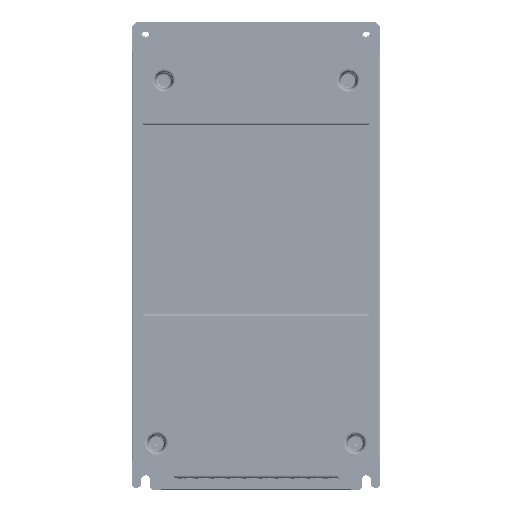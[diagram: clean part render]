
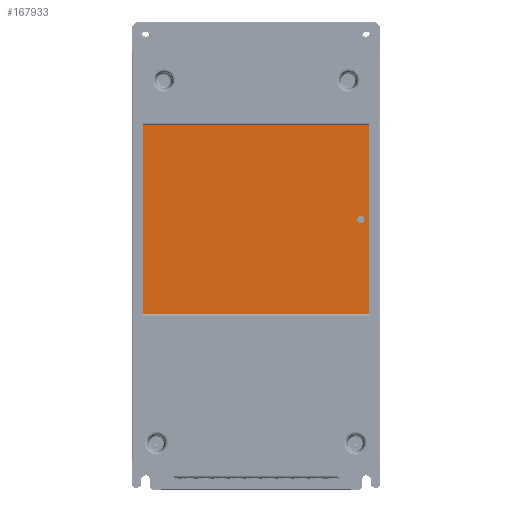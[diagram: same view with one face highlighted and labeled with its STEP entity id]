
A CAD part, front view. The second image highlights one B-rep face of the part: STEP entity #167933.
In plain terms, the highlighted planar face has unit normal (0, -1, 0) as drawn and (0, 0, 1) by its records, which use the part's own axes.
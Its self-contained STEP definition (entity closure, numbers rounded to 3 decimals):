
#472 = DIRECTION ( 'NONE',  ( 0., 0., -1. ) ) ;
#6141 = EDGE_LOOP ( 'NONE', ( #272871, #310421 ) ) ;
#8049 = DIRECTION ( 'NONE',  ( 0., 0., -1. ) ) ;
#13105 = EDGE_CURVE ( 'NONE', #100558, #299762, #95191, .T. ) ;
#18949 = CARTESIAN_POINT ( 'NONE',  ( 85., 35.25, -9.7 ) ) ;
#19913 = CARTESIAN_POINT ( 'NONE',  ( 77., 164.25, -9.7 ) ) ;
#41191 = CARTESIAN_POINT ( 'NONE',  ( -74.1, 99.75, -9.7 ) ) ;
#49530 = EDGE_LOOP ( 'NONE', ( #193710, #323721, #229771, #76265 ) ) ;
#52336 = EDGE_CURVE ( 'NONE', #123996, #288548, #132651, .T. ) ;
#58312 = CARTESIAN_POINT ( 'NONE',  ( -77., 33.75, -9.7 ) ) ;
#61475 = DIRECTION ( 'NONE',  ( 0., -1., 0. ) ) ;
#68668 = EDGE_CURVE ( 'NONE', #288548, #122860, #215059, .T. ) ;
#76265 = ORIENTED_EDGE ( 'NONE', *, *, #128382, .T. ) ;
#95191 = CIRCLE ( 'NONE', #315678, 2.5 ) ;
#98964 = VECTOR ( 'NONE', #251431, 1000. ) ;
#100558 = VERTEX_POINT ( 'NONE', #41191 ) ;
#106768 = LINE ( 'NONE', #18949, #98964 ) ;
#115701 = VECTOR ( 'NONE', #61475, 1000. ) ;
#122860 = VERTEX_POINT ( 'NONE', #230462 ) ;
#123765 = CARTESIAN_POINT ( 'NONE',  ( 77., 33.75, -9.7 ) ) ;
#123996 = VERTEX_POINT ( 'NONE', #231975 ) ;
#128382 = EDGE_CURVE ( 'NONE', #148277, #123996, #106768, .T. ) ;
#132651 = LINE ( 'NONE', #123765, #167782 ) ;
#148277 = VERTEX_POINT ( 'NONE', #193383 ) ;
#155226 = PLANE ( 'NONE',  #185529 ) ;
#157599 = AXIS2_PLACEMENT_3D ( 'NONE', #160847, #8049, #158708 ) ;
#158708 = DIRECTION ( 'NONE',  ( 1., 0., 0. ) ) ;
#160847 = CARTESIAN_POINT ( 'NONE',  ( -71.6, 99.75, -9.7 ) ) ;
#167782 = VECTOR ( 'NONE', #195945, 1000. ) ;
#167933 = ADVANCED_FACE ( 'NONE', ( #236516, #298701 ), #155226, .T. ) ;
#172034 = DIRECTION ( 'NONE',  ( 1., 0., 0. ) ) ;
#172187 = VECTOR ( 'NONE', #268516, 1000. ) ;
#185529 = AXIS2_PLACEMENT_3D ( 'NONE', #251254, #202241, #226208 ) ;
#193383 = CARTESIAN_POINT ( 'NONE',  ( -77., 35.25, -9.7 ) ) ;
#193710 = ORIENTED_EDGE ( 'NONE', *, *, #52336, .T. ) ;
#195945 = DIRECTION ( 'NONE',  ( 0., 1., 0. ) ) ;
#197343 = CIRCLE ( 'NONE', #157599, 2.5 ) ;
#202241 = DIRECTION ( 'NONE',  ( 0., 0., 1. ) ) ;
#202380 = EDGE_CURVE ( 'NONE', #122860, #148277, #260016, .T. ) ;
#215059 = LINE ( 'NONE', #295715, #172187 ) ;
#216520 = CARTESIAN_POINT ( 'NONE',  ( -69.1, 99.75, -9.7 ) ) ;
#226208 = DIRECTION ( 'NONE',  ( 1., 0., 0. ) ) ;
#229771 = ORIENTED_EDGE ( 'NONE', *, *, #202380, .T. ) ;
#230462 = CARTESIAN_POINT ( 'NONE',  ( -77., 164.25, -9.7 ) ) ;
#231975 = CARTESIAN_POINT ( 'NONE',  ( 77., 35.25, -9.7 ) ) ;
#236516 = FACE_BOUND ( 'NONE', #6141, .T. ) ;
#247242 = CARTESIAN_POINT ( 'NONE',  ( -71.6, 99.75, -9.7 ) ) ;
#251254 = CARTESIAN_POINT ( 'NONE',  ( 85., 33.75, -9.7 ) ) ;
#251431 = DIRECTION ( 'NONE',  ( 1., 0., 0. ) ) ;
#260016 = LINE ( 'NONE', #58312, #115701 ) ;
#268516 = DIRECTION ( 'NONE',  ( -1., 0., 0. ) ) ;
#272871 = ORIENTED_EDGE ( 'NONE', *, *, #296488, .T. ) ;
#288548 = VERTEX_POINT ( 'NONE', #19913 ) ;
#295715 = CARTESIAN_POINT ( 'NONE',  ( 85., 164.25, -9.7 ) ) ;
#296488 = EDGE_CURVE ( 'NONE', #299762, #100558, #197343, .T. ) ;
#298701 = FACE_OUTER_BOUND ( 'NONE', #49530, .T. ) ;
#299762 = VERTEX_POINT ( 'NONE', #216520 ) ;
#310421 = ORIENTED_EDGE ( 'NONE', *, *, #13105, .T. ) ;
#315678 = AXIS2_PLACEMENT_3D ( 'NONE', #247242, #472, #172034 ) ;
#323721 = ORIENTED_EDGE ( 'NONE', *, *, #68668, .T. ) ;
